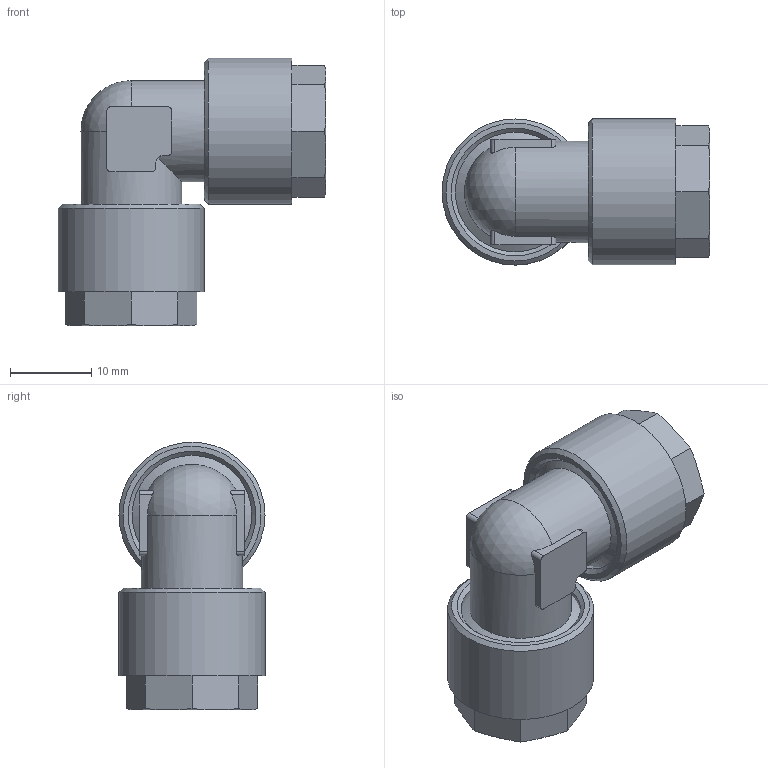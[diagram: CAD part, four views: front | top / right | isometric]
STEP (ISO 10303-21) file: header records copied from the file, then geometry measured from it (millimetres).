
FILE_DESCRIPTION(/* description */ (''),/* implementation_level */ '2;1');
FILE_NAME(/* name */ '11307_306_1210_10.08.17',/* time_stamp */ '2017-08-10T11:25:06+02:00',/* author */ (''),/* organization */ (''),/* preprocessor_version */ 'ST-DEVELOPER v16.5',/* originating_system */ 'HiCAD 2016 2102.2 Build 618',/* authorisation */ '');
FILE_SCHEMA (('AUTOMOTIVE_DESIGN { 1 0 10303 214 1 1 1 1 }'));
Length unit declared in the file: millimetre
Products named in the file (4): Root; R11307; 17008
Assembly tree (3 placements, depth 2):
  Root
    R11307
    17008
    17008
Bounding box: 33.02 x 18 x 33 mm (x, y, z)
Volume: 6100.4 mm3; surface area: 6909 mm2
Topology: 3 solids, 3 shells, 103 faces, 251 edges, 162 vertices
Faces by surface type: plane 42, cone 32, cylinder 26, torus 2, sphere 1
Full cylindrical faces by diameter (mm): 8.5 x2, 10.5 x2, 12 x2, 12.5 x2, 14.73 x2, 16 x2, 18 x2
Entity records: 8968 total; most frequent: CARTESIAN_POINT 4556, DIRECTION 518, PRESENTATION_STYLE_ASSIGNMENT 417, COLOUR_RGB 415, DRAUGHTING_PRE_DEFINED_CURVE_FONT 414, CURVE_STYLE 414, OVER_RIDING_STYLED_ITEM 414, ORIENTED_EDGE 414
